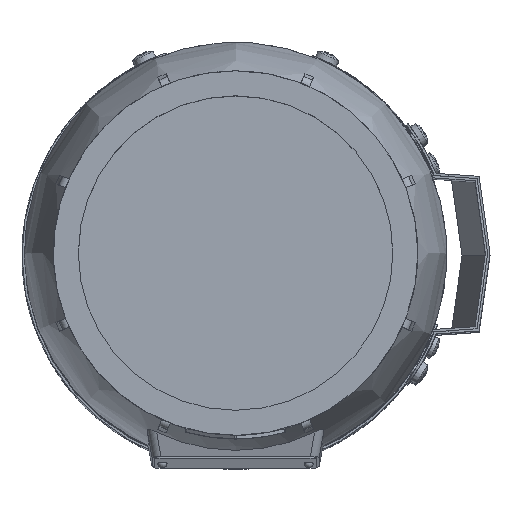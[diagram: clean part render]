
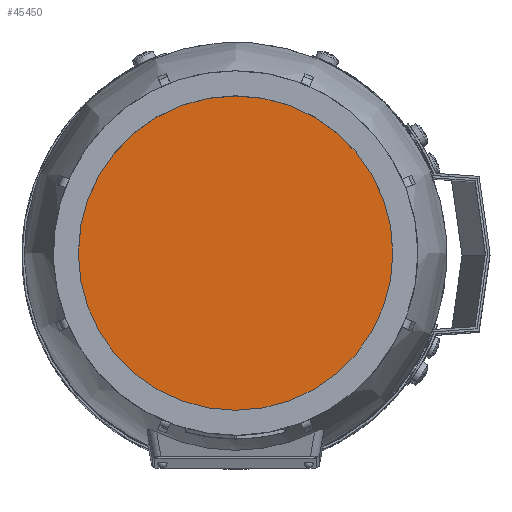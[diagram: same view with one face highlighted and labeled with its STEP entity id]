
A CAD part, top view. The second image highlights one B-rep face of the part: STEP entity #45450.
In plain terms, the highlighted planar face has unit normal (0, 0, 1) as drawn and (0, 1, 0) by its records, which use the part's own axes.
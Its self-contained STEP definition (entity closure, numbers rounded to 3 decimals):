
#9529=ORIENTED_EDGE('',*,*,#23267,.F.);
#23267=EDGE_CURVE('',#30136,#30136,#34763,.T.);
#30136=VERTEX_POINT('',#65589);
#34763=CIRCLE('',#47938,67.736);
#36839=EDGE_LOOP('',(#9529));
#40147=FACE_BOUND('',#36839,.T.);
#43473=PLANE('',#47937);
#45450=ADVANCED_FACE('',(#40147),#43473,.F.);
#47937=AXIS2_PLACEMENT_3D('',#65587,#52426,#52427);
#47938=AXIS2_PLACEMENT_3D('',#65588,#52428,#52429);
#52426=DIRECTION('',(0.,-1.,0.));
#52427=DIRECTION('',(0.,0.,-1.));
#52428=DIRECTION('',(0.,-1.,0.));
#52429=DIRECTION('',(0.,0.,-1.));
#65587=CARTESIAN_POINT('',(0.,154.,0.));
#65588=CARTESIAN_POINT('',(0.,154.,0.));
#65589=CARTESIAN_POINT('',(0.,154.,-67.736));
